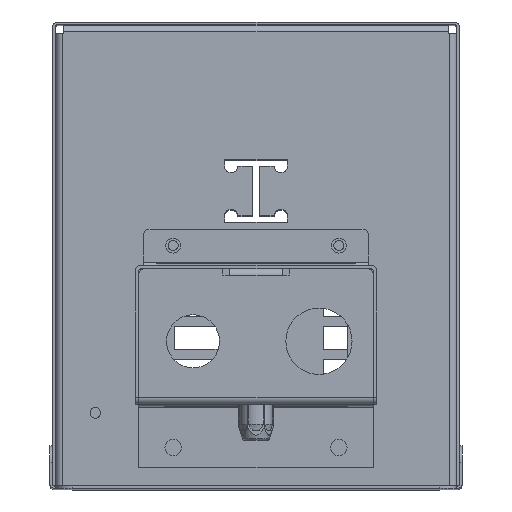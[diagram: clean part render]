
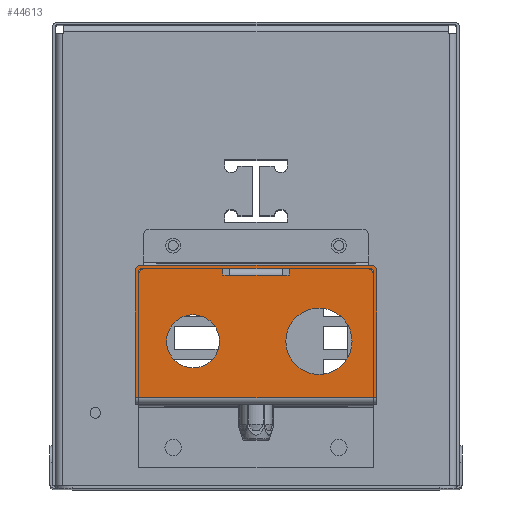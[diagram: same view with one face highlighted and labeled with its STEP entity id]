
A CAD part, top view. The second image highlights one B-rep face of the part: STEP entity #44613.
In plain terms, the highlighted planar face has unit normal (0, 0, 1).
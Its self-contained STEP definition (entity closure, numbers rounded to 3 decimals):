
#6206=LINE('',#74637,#10664);
#6213=LINE('',#74651,#10671);
#6216=LINE('',#74656,#10674);
#6219=LINE('',#74665,#10677);
#6228=LINE('',#74696,#10686);
#6230=LINE('',#74700,#10688);
#6231=LINE('',#74703,#10689);
#6242=LINE('',#74734,#10700);
#6263=LINE('',#74822,#10721);
#6269=LINE('',#74833,#10727);
#6270=LINE('',#74834,#10728);
#6288=LINE('',#74907,#10746);
#6292=LINE('',#74915,#10750);
#6296=LINE('',#74928,#10754);
#6297=LINE('',#74930,#10755);
#6298=LINE('',#74932,#10756);
#6299=LINE('',#74935,#10757);
#6300=LINE('',#74937,#10758);
#10664=VECTOR('',#54004,10.);
#10671=VECTOR('',#54017,10.);
#10674=VECTOR('',#54022,10.);
#10677=VECTOR('',#54031,10.);
#10686=VECTOR('',#54062,10.);
#10688=VECTOR('',#54066,10.);
#10689=VECTOR('',#54069,10.);
#10700=VECTOR('',#54110,10.);
#10721=VECTOR('',#54189,10.);
#10727=VECTOR('',#54195,10.);
#10728=VECTOR('',#54196,10.);
#10746=VECTOR('',#54270,10.);
#10750=VECTOR('',#54278,10.);
#10754=VECTOR('',#54290,10.);
#10755=VECTOR('',#54293,10.);
#10756=VECTOR('',#54294,10.);
#10757=VECTOR('',#54297,10.);
#10758=VECTOR('',#54298,10.);
#12228=PLANE('',#46409);
#12771=FACE_BOUND('',#17600,.T.);
#12772=FACE_BOUND('',#17601,.T.);
#12773=FACE_BOUND('',#17602,.T.);
#14920=FACE_OUTER_BOUND('',#17599,.T.);
#17599=EDGE_LOOP('',(#39791,#39792,#39793,#39794,#39795,#39796,#39797,#39798,
#39799,#39800,#39801,#39802,#39803,#39804,#39805,#39806,#39807,#39808));
#17600=EDGE_LOOP('',(#39809,#39810,#39811,#39812,#39813,#39814));
#17601=EDGE_LOOP('',(#39815));
#17602=EDGE_LOOP('',(#39816));
#17911=CIRCLE('',#46316,2.);
#17916=CIRCLE('',#46323,2.);
#17922=CIRCLE('',#46338,10.);
#17923=CIRCLE('',#46340,8.);
#17943=CIRCLE('',#46394,1.);
#17944=CIRCLE('',#46396,2.);
#17950=CIRCLE('',#46410,2.);
#17951=CIRCLE('',#46411,1.);
#21852=VERTEX_POINT('',#74634);
#21853=VERTEX_POINT('',#74636);
#21857=VERTEX_POINT('',#74649);
#21858=VERTEX_POINT('',#74654);
#21859=VERTEX_POINT('',#74658);
#21860=VERTEX_POINT('',#74660);
#21861=VERTEX_POINT('',#74664);
#21866=VERTEX_POINT('',#74678);
#21867=VERTEX_POINT('',#74679);
#21872=VERTEX_POINT('',#74694);
#21873=VERTEX_POINT('',#74698);
#21874=VERTEX_POINT('',#74702);
#21878=VERTEX_POINT('',#74721);
#21879=VERTEX_POINT('',#74724);
#21899=VERTEX_POINT('',#74821);
#21904=VERTEX_POINT('',#74831);
#21925=VERTEX_POINT('',#74888);
#21926=VERTEX_POINT('',#74892);
#21927=VERTEX_POINT('',#74894);
#21930=VERTEX_POINT('',#74904);
#21931=VERTEX_POINT('',#74906);
#21935=VERTEX_POINT('',#74921);
#21938=VERTEX_POINT('',#74926);
#21939=VERTEX_POINT('',#74931);
#21940=VERTEX_POINT('',#74933);
#21941=VERTEX_POINT('',#74936);
#27789=EDGE_CURVE('',#21852,#21853,#6206,.T.);
#27797=EDGE_CURVE('',#21852,#21857,#6213,.T.);
#27800=EDGE_CURVE('',#21858,#21853,#6216,.T.);
#27802=EDGE_CURVE('',#21859,#21860,#17911,.T.);
#27804=EDGE_CURVE('',#21860,#21861,#6219,.T.);
#27812=EDGE_CURVE('',#21866,#21867,#17916,.T.);
#27822=EDGE_CURVE('',#21872,#21866,#6228,.T.);
#27824=EDGE_CURVE('',#21857,#21873,#6230,.T.);
#27825=EDGE_CURVE('',#21874,#21858,#6231,.T.);
#27834=EDGE_CURVE('',#21878,#21878,#17922,.T.);
#27835=EDGE_CURVE('',#21879,#21879,#17923,.T.);
#27839=EDGE_CURVE('',#21861,#21872,#6242,.T.);
#27873=EDGE_CURVE('',#21899,#21867,#6263,.T.);
#27879=EDGE_CURVE('',#21859,#21904,#6269,.T.);
#27880=EDGE_CURVE('',#21873,#21874,#6270,.T.);
#27908=EDGE_CURVE('',#21904,#21925,#17943,.T.);
#27910=EDGE_CURVE('',#21927,#21926,#17944,.T.);
#27914=EDGE_CURVE('',#21930,#21931,#6288,.T.);
#27919=EDGE_CURVE('',#21930,#21927,#6292,.T.);
#27925=EDGE_CURVE('',#21938,#21935,#6296,.T.);
#27926=EDGE_CURVE('',#21925,#21931,#6297,.T.);
#27927=EDGE_CURVE('',#21926,#21939,#6298,.T.);
#27928=EDGE_CURVE('',#21939,#21940,#17950,.T.);
#27929=EDGE_CURVE('',#21940,#21935,#6299,.T.);
#27930=EDGE_CURVE('',#21938,#21941,#6300,.T.);
#27931=EDGE_CURVE('',#21941,#21899,#17951,.T.);
#39791=ORIENTED_EDGE('',*,*,#27812,.F.);
#39792=ORIENTED_EDGE('',*,*,#27822,.F.);
#39793=ORIENTED_EDGE('',*,*,#27839,.F.);
#39794=ORIENTED_EDGE('',*,*,#27804,.F.);
#39795=ORIENTED_EDGE('',*,*,#27802,.F.);
#39796=ORIENTED_EDGE('',*,*,#27879,.T.);
#39797=ORIENTED_EDGE('',*,*,#27908,.T.);
#39798=ORIENTED_EDGE('',*,*,#27926,.T.);
#39799=ORIENTED_EDGE('',*,*,#27914,.F.);
#39800=ORIENTED_EDGE('',*,*,#27919,.T.);
#39801=ORIENTED_EDGE('',*,*,#27910,.T.);
#39802=ORIENTED_EDGE('',*,*,#27927,.T.);
#39803=ORIENTED_EDGE('',*,*,#27928,.T.);
#39804=ORIENTED_EDGE('',*,*,#27929,.T.);
#39805=ORIENTED_EDGE('',*,*,#27925,.F.);
#39806=ORIENTED_EDGE('',*,*,#27930,.T.);
#39807=ORIENTED_EDGE('',*,*,#27931,.T.);
#39808=ORIENTED_EDGE('',*,*,#27873,.T.);
#39809=ORIENTED_EDGE('',*,*,#27880,.T.);
#39810=ORIENTED_EDGE('',*,*,#27825,.T.);
#39811=ORIENTED_EDGE('',*,*,#27800,.T.);
#39812=ORIENTED_EDGE('',*,*,#27789,.F.);
#39813=ORIENTED_EDGE('',*,*,#27797,.T.);
#39814=ORIENTED_EDGE('',*,*,#27824,.T.);
#39815=ORIENTED_EDGE('',*,*,#27834,.T.);
#39816=ORIENTED_EDGE('',*,*,#27835,.T.);
#44613=ADVANCED_FACE('',(#14920,#12771,#12772,#12773),#12228,.T.);
#46316=AXIS2_PLACEMENT_3D('',#74661,#54026,#54027);
#46323=AXIS2_PLACEMENT_3D('',#74680,#54045,#54046);
#46338=AXIS2_PLACEMENT_3D('',#74722,#54091,#54092);
#46340=AXIS2_PLACEMENT_3D('',#74725,#54095,#54096);
#46394=AXIS2_PLACEMENT_3D('',#74890,#54250,#54251);
#46396=AXIS2_PLACEMENT_3D('',#74895,#54255,#54256);
#46409=AXIS2_PLACEMENT_3D('',#74929,#54291,#54292);
#46410=AXIS2_PLACEMENT_3D('',#74934,#54295,#54296);
#46411=AXIS2_PLACEMENT_3D('',#74938,#54299,#54300);
#54004=DIRECTION('',(1.,0.,0.));
#54017=DIRECTION('',(-1.,0.,0.));
#54022=DIRECTION('',(-1.,0.,0.));
#54026=DIRECTION('center_axis',(0.,0.,
-1.));
#54027=DIRECTION('ref_axis',(0.707,0.707,0.));
#54031=DIRECTION('',(0.,-1.,0.));
#54045=DIRECTION('center_axis',(0.,0.,
-1.));
#54046=DIRECTION('ref_axis',(-0.707,0.707,0.));
#54062=DIRECTION('',(0.,1.,0.));
#54066=DIRECTION('',(0.,1.,0.));
#54069=DIRECTION('',(0.,-1.,0.));
#54091=DIRECTION('center_axis',(0.,0.,
-1.));
#54092=DIRECTION('ref_axis',(-1.,0.,0.));
#54095=DIRECTION('center_axis',(0.,0.,
-1.));
#54096=DIRECTION('ref_axis',(-1.,0.,0.));
#54110=DIRECTION('',(-1.,0.,0.));
#54189=DIRECTION('',(1.,0.,0.));
#54195=DIRECTION('',(1.,0.,0.));
#54196=DIRECTION('',(1.,0.,0.));
#54250=DIRECTION('center_axis',(0.,0.,
-1.));
#54251=DIRECTION('ref_axis',(-1.,0.,0.));
#54255=DIRECTION('center_axis',(0.,0.,
1.));
#54256=DIRECTION('ref_axis',(1.,0.,0.));
#54270=DIRECTION('',(-1.,0.,0.));
#54278=DIRECTION('',(0.,1.,0.));
#54290=DIRECTION('',(-1.,0.,0.));
#54291=DIRECTION('center_axis',(0.,0.,
1.));
#54292=DIRECTION('ref_axis',(1.,0.,0.));
#54293=DIRECTION('',(0.,-1.,0.));
#54294=DIRECTION('',(-1.,0.,0.));
#54295=DIRECTION('center_axis',(0.,0.,
1.));
#54296=DIRECTION('ref_axis',(0.,1.,0.));
#54297=DIRECTION('',(0.,-1.,0.));
#54298=DIRECTION('',(0.,1.,0.));
#54299=DIRECTION('center_axis',(0.,0.,
-1.));
#54300=DIRECTION('ref_axis',(0.,-1.,0.));
#74634=CARTESIAN_POINT('',(-8.,57.9,154.8));
#74636=CARTESIAN_POINT('',(8.,57.9,154.8));
#74637=CARTESIAN_POINT('',(0.,57.9,154.8));
#74649=CARTESIAN_POINT('',(-10.,57.9,154.8));
#74651=CARTESIAN_POINT('',(-4.5,57.9,154.8));
#74654=CARTESIAN_POINT('',(10.,57.9,154.8));
#74656=CARTESIAN_POINT('',(4.5,57.9,154.8));
#74658=CARTESIAN_POINT('',(33.4,59.9,154.8));
#74660=CARTESIAN_POINT('',(35.4,57.9,154.8));
#74661=CARTESIAN_POINT('Origin',(33.4,57.9,154.8));
#74664=CARTESIAN_POINT('',(35.4,20.9,154.8));
#74665=CARTESIAN_POINT('',(35.4,18.9,154.8));
#74678=CARTESIAN_POINT('',(-35.4,57.9,154.8));
#74679=CARTESIAN_POINT('',(-33.4,59.9,154.8));
#74680=CARTESIAN_POINT('Origin',(-33.4,57.9,154.8));
#74694=CARTESIAN_POINT('',(-35.4,20.9,154.8));
#74696=CARTESIAN_POINT('',(-35.4,58.9,154.8));
#74698=CARTESIAN_POINT('',(-10.,59.9,154.8));
#74700=CARTESIAN_POINT('',(-10.,58.9,154.8));
#74702=CARTESIAN_POINT('',(10.,59.9,154.8));
#74703=CARTESIAN_POINT('',(10.,38.9,154.8));
#74721=CARTESIAN_POINT('',(29.,37.9,154.8));
#74722=CARTESIAN_POINT('Origin',(19.,37.9,154.8));
#74724=CARTESIAN_POINT('',(-11.,37.9,154.8));
#74725=CARTESIAN_POINT('Origin',(-19.,37.9,154.8));
#74734=CARTESIAN_POINT('',(0.,20.9,154.8));
#74821=CARTESIAN_POINT('',(-34.5,59.9,154.8));
#74822=CARTESIAN_POINT('',(-34.5,59.9,154.8));
#74831=CARTESIAN_POINT('',(34.5,59.9,154.8));
#74833=CARTESIAN_POINT('',(-34.5,59.9,154.8));
#74834=CARTESIAN_POINT('',(-34.5,59.9,154.8));
#74888=CARTESIAN_POINT('',(35.5,58.9,154.8));
#74890=CARTESIAN_POINT('Origin',(34.5,58.9,154.8));
#74892=CARTESIAN_POINT('',(34.5,60.9,154.8));
#74894=CARTESIAN_POINT('',(36.5,58.9,154.8));
#74895=CARTESIAN_POINT('Origin',(34.5,58.9,154.8));
#74904=CARTESIAN_POINT('',(36.5,20.9,154.8));
#74906=CARTESIAN_POINT('',(35.5,20.9,154.8));
#74907=CARTESIAN_POINT('',(17.75,20.9,154.8));
#74915=CARTESIAN_POINT('',(36.5,18.9,154.8));
#74921=CARTESIAN_POINT('',(-36.5,20.9,154.8));
#74926=CARTESIAN_POINT('',(-35.5,20.9,154.8));
#74928=CARTESIAN_POINT('',(-18.25,20.9,154.8));
#74929=CARTESIAN_POINT('Origin',(0.,48.917,
154.8));
#74930=CARTESIAN_POINT('',(35.5,58.9,154.8));
#74931=CARTESIAN_POINT('',(-34.5,60.9,154.8));
#74932=CARTESIAN_POINT('',(34.5,60.9,154.8));
#74933=CARTESIAN_POINT('',(-36.5,58.9,154.8));
#74934=CARTESIAN_POINT('Origin',(-34.5,58.9,154.8));
#74935=CARTESIAN_POINT('',(-36.5,58.9,154.8));
#74936=CARTESIAN_POINT('',(-35.5,58.9,154.8));
#74937=CARTESIAN_POINT('',(-35.5,18.9,154.8));
#74938=CARTESIAN_POINT('Origin',(-34.5,58.9,154.8));
